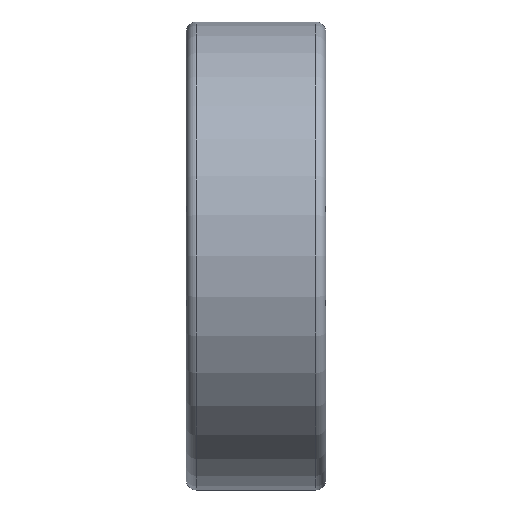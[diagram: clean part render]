
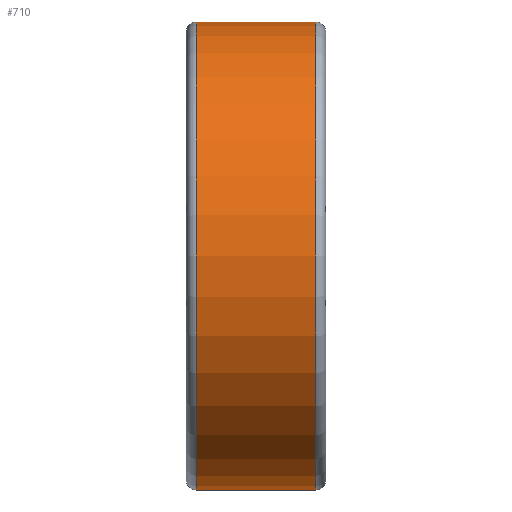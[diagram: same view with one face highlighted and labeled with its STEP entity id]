
A CAD part, front view. The second image highlights one B-rep face of the part: STEP entity #710.
In plain terms, the highlighted cylindrical face has radius 23.5 mm (diameter 47 mm), a full revolution.
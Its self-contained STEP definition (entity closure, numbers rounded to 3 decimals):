
#43=LINE('',#1365,#49);
#49=VECTOR('',#1116,23.5);
#54=CYLINDRICAL_SURFACE('',#863,23.5);
#124=FACE_OUTER_BOUND('',#182,.T.);
#182=EDGE_LOOP('',(#634,#635,#636,#637,#638,#639));
#270=CIRCLE('',#858,23.5);
#271=CIRCLE('',#859,23.5);
#274=CIRCLE('',#864,23.5);
#275=CIRCLE('',#865,23.5);
#374=VERTEX_POINT('',#1353);
#375=VERTEX_POINT('',#1354);
#377=VERTEX_POINT('',#1362);
#378=VERTEX_POINT('',#1363);
#463=EDGE_CURVE('',#374,#375,#270,.T.);
#464=EDGE_CURVE('',#375,#374,#271,.T.);
#467=EDGE_CURVE('',#377,#378,#274,.T.);
#468=EDGE_CURVE('',#377,#375,#43,.T.);
#469=EDGE_CURVE('',#378,#377,#275,.T.);
#634=ORIENTED_EDGE('',*,*,#467,.F.);
#635=ORIENTED_EDGE('',*,*,#468,.T.);
#636=ORIENTED_EDGE('',*,*,#463,.F.);
#637=ORIENTED_EDGE('',*,*,#464,.F.);
#638=ORIENTED_EDGE('',*,*,#468,.F.);
#639=ORIENTED_EDGE('',*,*,#469,.F.);
#710=ADVANCED_FACE('',(#124),#54,.T.);
#858=AXIS2_PLACEMENT_3D('',#1355,#1102,#1103);
#859=AXIS2_PLACEMENT_3D('',#1356,#1104,#1105);
#863=AXIS2_PLACEMENT_3D('',#1361,#1112,#1113);
#864=AXIS2_PLACEMENT_3D('',#1364,#1114,#1115);
#865=AXIS2_PLACEMENT_3D('',#1366,#1117,#1118);
#1102=DIRECTION('center_axis',(-1.,0.,0.));
#1103=DIRECTION('ref_axis',(0.,-1.,0.));
#1104=DIRECTION('center_axis',(-1.,0.,0.));
#1105=DIRECTION('ref_axis',(0.,-1.,0.));
#1112=DIRECTION('center_axis',(1.,0.,0.));
#1113=DIRECTION('ref_axis',(0.,1.,0.));
#1114=DIRECTION('center_axis',(1.,0.,0.));
#1115=DIRECTION('ref_axis',(0.,-1.,0.));
#1116=DIRECTION('',(-1.,0.,0.));
#1117=DIRECTION('center_axis',(1.,0.,0.));
#1118=DIRECTION('ref_axis',(0.,-1.,0.));
#1353=CARTESIAN_POINT('',(1.,0.,23.5));
#1354=CARTESIAN_POINT('',(1.,-23.5,0.));
#1355=CARTESIAN_POINT('Origin',(1.,0.,0.));
#1356=CARTESIAN_POINT('Origin',(1.,0.,0.));
#1361=CARTESIAN_POINT('Origin',(7.,0.,0.));
#1362=CARTESIAN_POINT('',(13.,-23.5,0.));
#1363=CARTESIAN_POINT('',(13.,0.,23.5));
#1364=CARTESIAN_POINT('Origin',(13.,0.,0.));
#1365=CARTESIAN_POINT('',(7.,-23.5,0.));
#1366=CARTESIAN_POINT('Origin',(13.,0.,0.));
